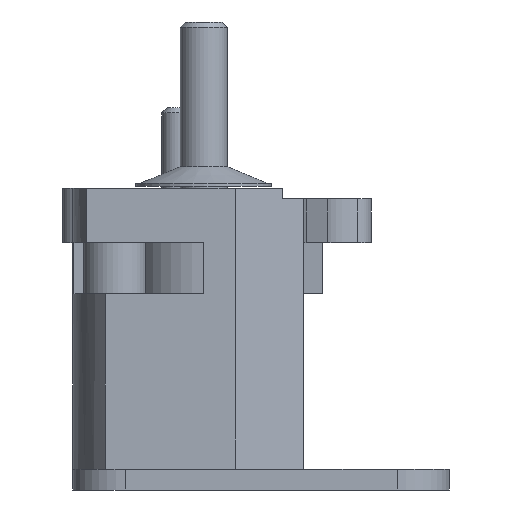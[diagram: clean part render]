
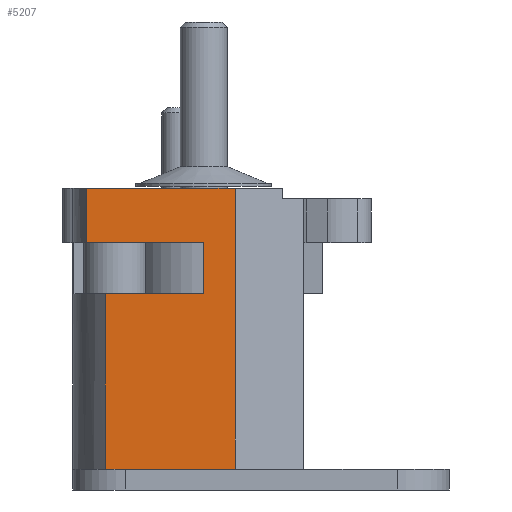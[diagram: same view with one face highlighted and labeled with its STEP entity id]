
A CAD part, front view. The second image highlights one B-rep face of the part: STEP entity #5207.
In plain terms, the highlighted planar face has unit normal (0, -1, 0).
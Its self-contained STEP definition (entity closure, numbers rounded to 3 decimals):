
#747 = EDGE_CURVE ( 'NONE', #1231, #5077, #2023, .T. ) ;
#1110 = VERTEX_POINT ( 'NONE', #3801 ) ;
#1114 = VERTEX_POINT ( 'NONE', #3796 ) ;
#1215 = VERTEX_POINT ( 'NONE', #3663 ) ;
#1231 = VERTEX_POINT ( 'NONE', #3642 ) ;
#1320 = ORIENTED_EDGE ( 'NONE', *, *, #4612, .F. ) ;
#1625 = VERTEX_POINT ( 'NONE', #3546 ) ;
#1658 = DIRECTION ( 'NONE',  ( 0., 0., 1. ) ) ;
#1661 = DIRECTION ( 'NONE',  ( 0., 1., 0. ) ) ;
#1662 = CARTESIAN_POINT ( 'NONE',  ( -4.935, -48.5, 50.578 ) ) ;
#1663 = PLANE ( 'NONE',  #1840 ) ;
#1840 = AXIS2_PLACEMENT_3D ( 'NONE', #1662, #1661, #1658 ) ;
#2023 = LINE ( 'NONE', #4281, #2025 ) ;
#2025 = VECTOR ( 'NONE', #4280, 1000. ) ;
#2414 = LINE ( 'NONE', #3348, #2416 ) ;
#2416 = VECTOR ( 'NONE', #3347, 1000. ) ;
#2417 = LINE ( 'NONE', #3346, #2418 ) ;
#2418 = VECTOR ( 'NONE', #3345, 1000. ) ;
#2419 = LINE ( 'NONE', #3343, #2420 ) ;
#2420 = VECTOR ( 'NONE', #3342, 1000. ) ;
#2421 = LINE ( 'NONE', #3341, #2422 ) ;
#2422 = VECTOR ( 'NONE', #3339, 1000. ) ;
#2423 = LINE ( 'NONE', #3337, #2424 ) ;
#2424 = VECTOR ( 'NONE', #3336, 1000. ) ;
#2425 = LINE ( 'NONE', #3334, #2426 ) ;
#2426 = VECTOR ( 'NONE', #3333, 1000. ) ;
#2427 = LINE ( 'NONE', #3331, #2428 ) ;
#2428 = VECTOR ( 'NONE', #3330, 1000. ) ;
#2693 = FACE_OUTER_BOUND ( 'NONE', #4443, .T. ) ;
#2754 = ORIENTED_EDGE ( 'NONE', *, *, #4611, .T. ) ;
#2755 = ORIENTED_EDGE ( 'NONE', *, *, #747, .T. ) ;
#2756 = ORIENTED_EDGE ( 'NONE', *, *, #4610, .F. ) ;
#2757 = ORIENTED_EDGE ( 'NONE', *, *, #4609, .F. ) ;
#2758 = ORIENTED_EDGE ( 'NONE', *, *, #4608, .F. ) ;
#2759 = ORIENTED_EDGE ( 'NONE', *, *, #4607, .F. ) ;
#2760 = ORIENTED_EDGE ( 'NONE', *, *, #4606, .F. ) ;
#2941 = CARTESIAN_POINT ( 'NONE',  ( 4.5, -48.5, 23.65 ) ) ;
#3085 = CARTESIAN_POINT ( 'NONE',  ( 7.5, -48.5, 2. ) ) ;
#3126 = CARTESIAN_POINT ( 'NONE',  ( 4.5, -48.5, 18.75 ) ) ;
#3330 = DIRECTION ( 'NONE',  ( 1., 0., 0. ) ) ;
#3331 = CARTESIAN_POINT ( 'NONE',  ( -4.935, -48.5, 18.75 ) ) ;
#3333 = DIRECTION ( 'NONE',  ( 0., 0., -1. ) ) ;
#3334 = CARTESIAN_POINT ( 'NONE',  ( -4.935, -48.5, 50.578 ) ) ;
#3336 = DIRECTION ( 'NONE',  ( 0., 0., -1. ) ) ;
#3337 = CARTESIAN_POINT ( 'NONE',  ( 7.5, -48.5, 50.578 ) ) ;
#3339 = DIRECTION ( 'NONE',  ( 1., 0., 0. ) ) ;
#3341 = CARTESIAN_POINT ( 'NONE',  ( -6.725, -48.5, 28.85 ) ) ;
#3342 = DIRECTION ( 'NONE',  ( 0., 0., 1. ) ) ;
#3343 = CARTESIAN_POINT ( 'NONE',  ( -6.725, -48.5, -22.614 ) ) ;
#3345 = DIRECTION ( 'NONE',  ( -1., 0., 0. ) ) ;
#3346 = CARTESIAN_POINT ( 'NONE',  ( -6.725, -48.5, 23.65 ) ) ;
#3347 = DIRECTION ( 'NONE',  ( 0., 0., 1. ) ) ;
#3348 = CARTESIAN_POINT ( 'NONE',  ( 4.5, -48.5, -10.982 ) ) ;
#3546 = CARTESIAN_POINT ( 'NONE',  ( -6.725, -48.5, 23.65 ) ) ;
#3642 = CARTESIAN_POINT ( 'NONE',  ( -4.935, -48.5, 2. ) ) ;
#3663 = CARTESIAN_POINT ( 'NONE',  ( -4.935, -48.5, 18.75 ) ) ;
#3796 = CARTESIAN_POINT ( 'NONE',  ( -6.725, -48.5, 28.85 ) ) ;
#3801 = CARTESIAN_POINT ( 'NONE',  ( 7.5, -48.5, 28.85 ) ) ;
#4280 = DIRECTION ( 'NONE',  ( 1., 0., 0. ) ) ;
#4281 = CARTESIAN_POINT ( 'NONE',  ( -4.935, -48.5, 2. ) ) ;
#4443 = EDGE_LOOP ( 'NONE', ( #1320, #2754, #2755, #2756, #2757, #2758, #2759, #2760 ) ) ;
#4606 = EDGE_CURVE ( 'NONE', #4996, #4928, #2414, .T. ) ;
#4607 = EDGE_CURVE ( 'NONE', #4928, #1625, #2417, .T. ) ;
#4608 = EDGE_CURVE ( 'NONE', #1625, #1114, #2419, .T. ) ;
#4609 = EDGE_CURVE ( 'NONE', #1114, #1110, #2421, .T. ) ;
#4610 = EDGE_CURVE ( 'NONE', #1110, #5077, #2423, .T. ) ;
#4611 = EDGE_CURVE ( 'NONE', #1215, #1231, #2425, .T. ) ;
#4612 = EDGE_CURVE ( 'NONE', #1215, #4996, #2427, .T. ) ;
#4928 = VERTEX_POINT ( 'NONE', #2941 ) ;
#4996 = VERTEX_POINT ( 'NONE', #3126 ) ;
#5077 = VERTEX_POINT ( 'NONE', #3085 ) ;
#5207 = ADVANCED_FACE ( 'NONE', ( #2693 ), #1663, .F. ) ;
